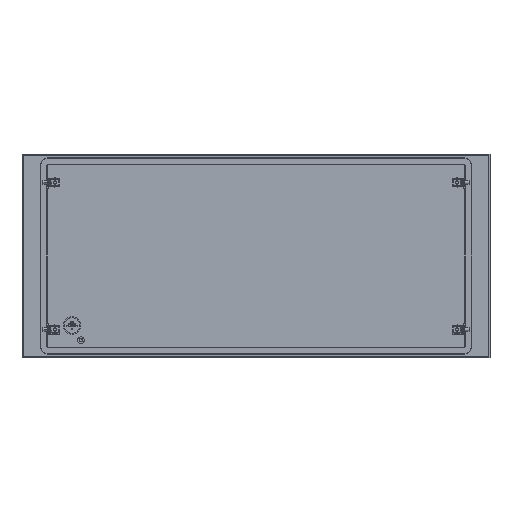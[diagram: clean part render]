
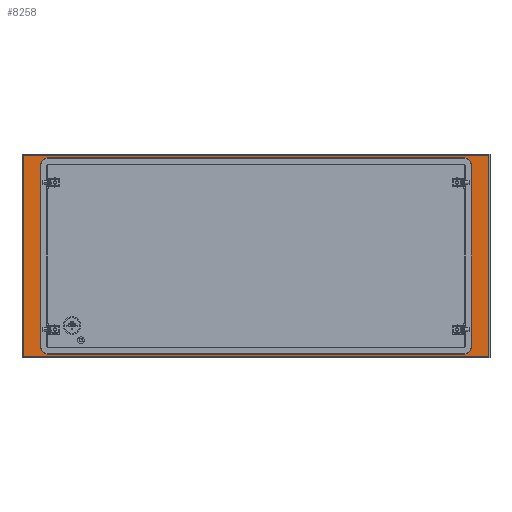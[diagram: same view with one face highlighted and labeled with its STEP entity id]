
A CAD part, left-side view. The second image highlights one B-rep face of the part: STEP entity #8258.
In plain terms, the highlighted planar face has unit normal (-1, 0, 0).
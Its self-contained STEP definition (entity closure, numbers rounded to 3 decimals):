
#83 = ORIENTED_EDGE ( 'NONE', *, *, #20024, .T. ) ;
#255 = CARTESIAN_POINT ( 'NONE',  ( -2., -352.5, -167. ) ) ;
#283 = ORIENTED_EDGE ( 'NONE', *, *, #7564, .T. ) ;
#1445 = VECTOR ( 'NONE', #15498, 1000. ) ;
#1579 = ORIENTED_EDGE ( 'NONE', *, *, #16828, .F. ) ;
#1728 = VERTEX_POINT ( 'NONE', #19122 ) ;
#1781 = PLANE ( 'NONE',  #3024 ) ;
#2023 = DIRECTION ( 'NONE',  ( 0., -1., 0. ) ) ;
#2148 = EDGE_CURVE ( 'NONE', #8557, #18740, #7279, .T. ) ;
#2374 = CARTESIAN_POINT ( 'NONE',  ( -2., 352.5, -167. ) ) ;
#3024 = AXIS2_PLACEMENT_3D ( 'NONE', #25173, #7662, #17505 ) ;
#3370 = DIRECTION ( 'NONE',  ( 0., 1., 0. ) ) ;
#3473 = EDGE_CURVE ( 'NONE', #11692, #23930, #19461, .T. ) ;
#3808 = ORIENTED_EDGE ( 'NONE', *, *, #9932, .T. ) ;
#3834 = EDGE_LOOP ( 'NONE', ( #1579, #24876, #283, #5537, #3808, #25148, #22204, #23931 ) ) ;
#3837 = CARTESIAN_POINT ( 'NONE',  ( -2., 352.5, -153. ) ) ;
#3926 = VECTOR ( 'NONE', #20087, 1000. ) ;
#4624 = LINE ( 'NONE', #10003, #24916 ) ;
#5488 = VECTOR ( 'NONE', #17431, 1000. ) ;
#5537 = ORIENTED_EDGE ( 'NONE', *, *, #11302, .T. ) ;
#6161 = CARTESIAN_POINT ( 'NONE',  ( -2., -395.5, 171. ) ) ;
#6450 = CARTESIAN_POINT ( 'NONE',  ( -2., -352.5, -153. ) ) ;
#6680 = CIRCLE ( 'NONE', #13218, 14. ) ;
#6816 = CARTESIAN_POINT ( 'NONE',  ( -2., -366.5, -153. ) ) ;
#7279 = CIRCLE ( 'NONE', #12215, 14. ) ;
#7531 = DIRECTION ( 'NONE',  ( 0., 0., 1. ) ) ;
#7564 = EDGE_CURVE ( 'NONE', #21743, #16510, #21421, .T. ) ;
#7587 = LINE ( 'NONE', #25228, #5488 ) ;
#7661 = LINE ( 'NONE', #17128, #18363 ) ;
#7662 = DIRECTION ( 'NONE',  ( 1., 0., 0. ) ) ;
#7692 = CARTESIAN_POINT ( 'NONE',  ( -2., 0., -171. ) ) ;
#7809 = VERTEX_POINT ( 'NONE', #6161 ) ;
#8258 = ADVANCED_FACE ( 'NONE', ( #21217, #17374 ), #1781, .F. ) ;
#8452 = LINE ( 'NONE', #10612, #3926 ) ;
#8557 = VERTEX_POINT ( 'NONE', #15304 ) ;
#8613 = EDGE_CURVE ( 'NONE', #1728, #11692, #15689, .T. ) ;
#8618 = CARTESIAN_POINT ( 'NONE',  ( -2., 352.5, 153. ) ) ;
#8838 = ORIENTED_EDGE ( 'NONE', *, *, #3473, .T. ) ;
#9462 = CARTESIAN_POINT ( 'NONE',  ( -2., 366.5, -153. ) ) ;
#9668 = CARTESIAN_POINT ( 'NONE',  ( -2., 366.5, 153. ) ) ;
#9932 = EDGE_CURVE ( 'NONE', #14463, #15189, #13313, .T. ) ;
#10003 = CARTESIAN_POINT ( 'NONE',  ( -2., 366.5, -153. ) ) ;
#10048 = AXIS2_PLACEMENT_3D ( 'NONE', #3837, #11510, #11641 ) ;
#10134 = DIRECTION ( 'NONE',  ( 0., 0., 1. ) ) ;
#10612 = CARTESIAN_POINT ( 'NONE',  ( -2., -352.5, -167. ) ) ;
#10793 = VECTOR ( 'NONE', #25271, 1000. ) ;
#11135 = DIRECTION ( 'NONE',  ( 0., 1., 0. ) ) ;
#11302 = EDGE_CURVE ( 'NONE', #16510, #14463, #8452, .T. ) ;
#11510 = DIRECTION ( 'NONE',  ( 1., 0., 0. ) ) ;
#11641 = DIRECTION ( 'NONE',  ( 0., 0., -1. ) ) ;
#11692 = VERTEX_POINT ( 'NONE', #24261 ) ;
#12215 = AXIS2_PLACEMENT_3D ( 'NONE', #8618, #20377, #20499 ) ;
#12709 = LINE ( 'NONE', #20503, #24061 ) ;
#13218 = AXIS2_PLACEMENT_3D ( 'NONE', #23619, #19539, #2023 ) ;
#13313 = CIRCLE ( 'NONE', #10048, 14. ) ;
#13383 = ORIENTED_EDGE ( 'NONE', *, *, #8613, .T. ) ;
#13910 = VERTEX_POINT ( 'NONE', #15211 ) ;
#14463 = VERTEX_POINT ( 'NONE', #2374 ) ;
#15006 = LINE ( 'NONE', #20405, #23853 ) ;
#15189 = VERTEX_POINT ( 'NONE', #9462 ) ;
#15211 = CARTESIAN_POINT ( 'NONE',  ( -2., -352.5, 167. ) ) ;
#15304 = CARTESIAN_POINT ( 'NONE',  ( -2., 352.5, 167. ) ) ;
#15498 = DIRECTION ( 'NONE',  ( 0., -1., 0. ) ) ;
#15689 = LINE ( 'NONE', #21571, #10793 ) ;
#16288 = VERTEX_POINT ( 'NONE', #24192 ) ;
#16510 = VERTEX_POINT ( 'NONE', #255 ) ;
#16828 = EDGE_CURVE ( 'NONE', #16288, #13910, #6680, .T. ) ;
#17128 = CARTESIAN_POINT ( 'NONE',  ( -2., -395.5, 0. ) ) ;
#17374 = FACE_BOUND ( 'NONE', #3834, .T. ) ;
#17431 = DIRECTION ( 'NONE',  ( 0., 0., -1. ) ) ;
#17505 = DIRECTION ( 'NONE',  ( 0., 0., 1. ) ) ;
#17642 = EDGE_LOOP ( 'NONE', ( #83, #20516, #13383, #8838 ) ) ;
#17747 = AXIS2_PLACEMENT_3D ( 'NONE', #6450, #18706, #18457 ) ;
#17869 = EDGE_CURVE ( 'NONE', #7809, #1728, #15006, .T. ) ;
#17957 = EDGE_CURVE ( 'NONE', #16288, #21743, #7587, .T. ) ;
#18363 = VECTOR ( 'NONE', #7531, 1000. ) ;
#18457 = DIRECTION ( 'NONE',  ( 0., -1., 0. ) ) ;
#18706 = DIRECTION ( 'NONE',  ( 1., 0., 0. ) ) ;
#18740 = VERTEX_POINT ( 'NONE', #9668 ) ;
#19122 = CARTESIAN_POINT ( 'NONE',  ( -2., 395.5, 171. ) ) ;
#19149 = CARTESIAN_POINT ( 'NONE',  ( -2., -395.5, -171. ) ) ;
#19461 = LINE ( 'NONE', #7692, #1445 ) ;
#19513 = EDGE_CURVE ( 'NONE', #13910, #8557, #12709, .T. ) ;
#19539 = DIRECTION ( 'NONE',  ( -1., 0., 0. ) ) ;
#20024 = EDGE_CURVE ( 'NONE', #23930, #7809, #7661, .T. ) ;
#20087 = DIRECTION ( 'NONE',  ( 0., 1., 0. ) ) ;
#20377 = DIRECTION ( 'NONE',  ( -1., 0., 0. ) ) ;
#20405 = CARTESIAN_POINT ( 'NONE',  ( -2., 0., 171. ) ) ;
#20499 = DIRECTION ( 'NONE',  ( 0., 0., 1. ) ) ;
#20503 = CARTESIAN_POINT ( 'NONE',  ( -2., -352.5, 167. ) ) ;
#20516 = ORIENTED_EDGE ( 'NONE', *, *, #17869, .T. ) ;
#20868 = EDGE_CURVE ( 'NONE', #15189, #18740, #4624, .T. ) ;
#21217 = FACE_OUTER_BOUND ( 'NONE', #17642, .T. ) ;
#21421 = CIRCLE ( 'NONE', #17747, 14. ) ;
#21571 = CARTESIAN_POINT ( 'NONE',  ( -2., 395.5, 0. ) ) ;
#21743 = VERTEX_POINT ( 'NONE', #6816 ) ;
#22204 = ORIENTED_EDGE ( 'NONE', *, *, #2148, .F. ) ;
#23619 = CARTESIAN_POINT ( 'NONE',  ( -2., -352.5, 153. ) ) ;
#23853 = VECTOR ( 'NONE', #3370, 1000. ) ;
#23931 = ORIENTED_EDGE ( 'NONE', *, *, #19513, .F. ) ;
#23930 = VERTEX_POINT ( 'NONE', #19149 ) ;
#24061 = VECTOR ( 'NONE', #11135, 1000. ) ;
#24192 = CARTESIAN_POINT ( 'NONE',  ( -2., -366.5, 153. ) ) ;
#24261 = CARTESIAN_POINT ( 'NONE',  ( -2., 395.5, -171. ) ) ;
#24876 = ORIENTED_EDGE ( 'NONE', *, *, #17957, .T. ) ;
#24916 = VECTOR ( 'NONE', #10134, 1000. ) ;
#25148 = ORIENTED_EDGE ( 'NONE', *, *, #20868, .T. ) ;
#25173 = CARTESIAN_POINT ( 'NONE',  ( -2., 0., 0. ) ) ;
#25228 = CARTESIAN_POINT ( 'NONE',  ( -2., -366.5, 0. ) ) ;
#25271 = DIRECTION ( 'NONE',  ( 0., 0., -1. ) ) ;
